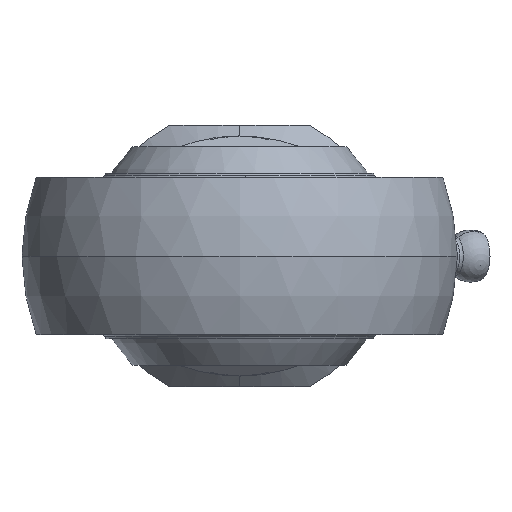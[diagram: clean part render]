
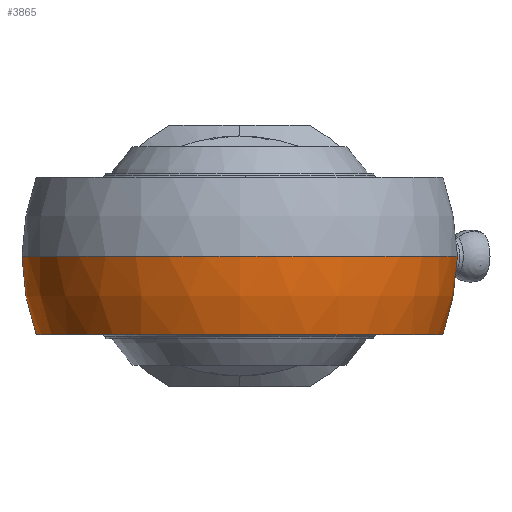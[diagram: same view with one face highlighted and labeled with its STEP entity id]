
A CAD part, left-side view. The second image highlights one B-rep face of the part: STEP entity #3865.
In plain terms, the highlighted spherical face has radius 25 mm.
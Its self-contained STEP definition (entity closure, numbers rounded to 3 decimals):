
#87 = CARTESIAN_POINT ( 'NONE',  ( 10.099, -21.024, -9. ) ) ;
#88 = CARTESIAN_POINT ( 'NONE',  ( -25., 0., 0. ) ) ;
#89 = CARTESIAN_POINT ( 'NONE',  ( 10.099, 22.869, 0. ) ) ;
#95 = CARTESIAN_POINT ( 'NONE',  ( 10.099, -22.869, 0. ) ) ;
#96 = DIRECTION ( 'NONE',  ( 1., 0., 0. ) ) ;
#97 = DIRECTION ( 'NONE',  ( 0., 0., 1. ) ) ;
#98 = CARTESIAN_POINT ( 'NONE',  ( 0., 0., 0. ) ) ;
#99 = AXIS2_PLACEMENT_3D ( 'NONE', #98, #97, #96 ) ;
#100 = CIRCLE ( 'NONE', #99, 25. ) ;
#105 = DIRECTION ( 'NONE',  ( -1., 0., 0. ) ) ;
#106 = CARTESIAN_POINT ( 'NONE',  ( 10.099, 0., 0. ) ) ;
#107 = AXIS2_PLACEMENT_3D ( 'NONE', #106, #105, #167 ) ;
#108 = CIRCLE ( 'NONE', #107, 22.869 ) ;
#130 = DIRECTION ( 'NONE',  ( 0., 1., 0. ) ) ;
#131 = DIRECTION ( 'NONE',  ( 0., 0., -1. ) ) ;
#132 = CARTESIAN_POINT ( 'NONE',  ( 0., 0., 0. ) ) ;
#133 = AXIS2_PLACEMENT_3D ( 'NONE', #132, #131, #130 ) ;
#137 = CIRCLE ( 'NONE', #133, 25. ) ;
#167 = DIRECTION ( 'NONE',  ( 0., 0., 1. ) ) ;
#1233 = ORIENTED_EDGE ( 'NONE', *, *, #1598, .T. ) ;
#1577 = ORIENTED_EDGE ( 'NONE', *, *, #1605, .T. ) ;
#1598 = EDGE_CURVE ( 'NONE', #3952, #1614, #4300, .T. ) ;
#1605 = EDGE_CURVE ( 'NONE', #1614, #3957, #4346, .T. ) ;
#1614 = VERTEX_POINT ( 'NONE', #4328 ) ;
#3865 = ADVANCED_FACE ( 'NONE', ( #4167 ), #4166, .T. ) ;
#3877 = EDGE_LOOP ( 'NONE', ( #3878, #3894, #3951, #1233, #1577 ) ) ;
#3878 = ORIENTED_EDGE ( 'NONE', *, *, #3980, .T. ) ;
#3894 = ORIENTED_EDGE ( 'NONE', *, *, #3964, .T. ) ;
#3944 = EDGE_CURVE ( 'NONE', #3952, #3955, #100, .T. ) ;
#3945 = VERTEX_POINT ( 'NONE', #95 ) ;
#3951 = ORIENTED_EDGE ( 'NONE', *, *, #3944, .F. ) ;
#3952 = VERTEX_POINT ( 'NONE', #89 ) ;
#3955 = VERTEX_POINT ( 'NONE', #88 ) ;
#3957 = VERTEX_POINT ( 'NONE', #87 ) ;
#3964 = EDGE_CURVE ( 'NONE', #3945, #3955, #137, .T. ) ;
#3980 = EDGE_CURVE ( 'NONE', #3957, #3945, #108, .T. ) ;
#4161 = DIRECTION ( 'NONE',  ( 0., 1., 0. ) ) ;
#4162 = DIRECTION ( 'NONE',  ( 0., 0., -1. ) ) ;
#4163 = CARTESIAN_POINT ( 'NONE',  ( 0., 0., 0. ) ) ;
#4164 = AXIS2_PLACEMENT_3D ( 'NONE', #4163, #4162, #4161 ) ;
#4166 = SPHERICAL_SURFACE ( 'NONE', #4164, 25. ) ;
#4167 = FACE_OUTER_BOUND ( 'NONE', #3877, .T. ) ;
#4300 = CIRCLE ( 'NONE', #4352, 22.869 ) ;
#4328 = CARTESIAN_POINT ( 'NONE',  ( 10.099, 21.024, -9. ) ) ;
#4336 = DIRECTION ( 'NONE',  ( 1., 0., 0. ) ) ;
#4337 = DIRECTION ( 'NONE',  ( 0., 0., 1. ) ) ;
#4338 = CARTESIAN_POINT ( 'NONE',  ( 0., 0., -9. ) ) ;
#4339 = AXIS2_PLACEMENT_3D ( 'NONE', #4338, #4337, #4336 ) ;
#4346 = CIRCLE ( 'NONE', #4339, 23.324 ) ;
#4349 = DIRECTION ( 'NONE',  ( 0., 0., 1. ) ) ;
#4350 = DIRECTION ( 'NONE',  ( -1., 0., 0. ) ) ;
#4351 = CARTESIAN_POINT ( 'NONE',  ( 10.099, 0., 0. ) ) ;
#4352 = AXIS2_PLACEMENT_3D ( 'NONE', #4351, #4350, #4349 ) ;
